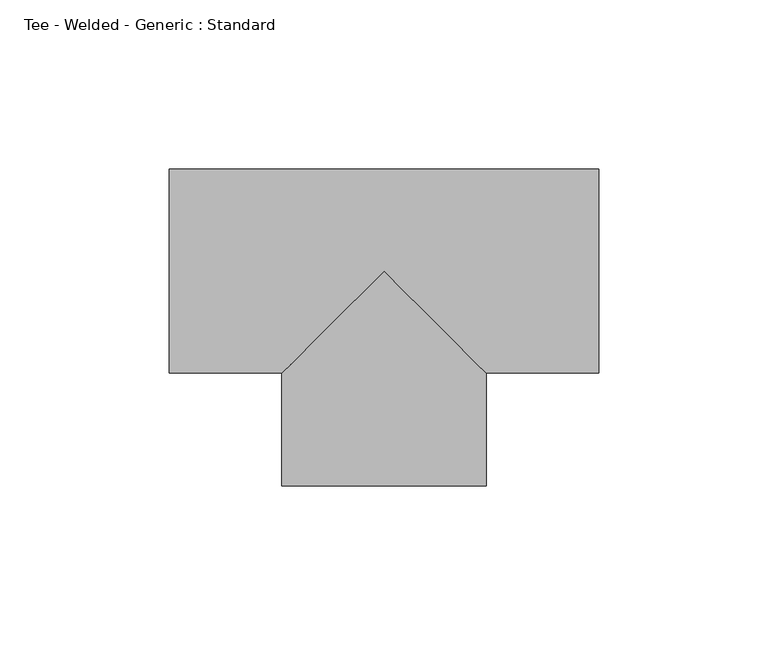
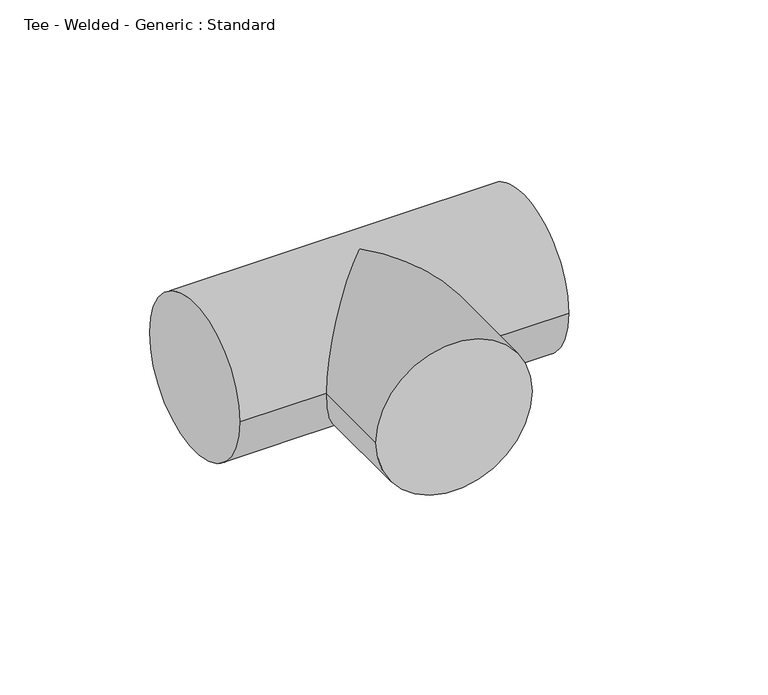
"""IFC4 building model written with IfcOpenShell, lengths in millimetres: pipe fitting geometry, Tee - Welded - Generic : Standard."""

from ifc_helpers import new_model, si_unit, frame, origin, place, context, project, spatial, circle_curve, ellipse_curve, source, transform, mapped, element, save
from ifc_brep_helpers import plane_surface, cylinder_surface, advanced_brep


def tee_welded_generic_standard_f967934a(model_context):
    return source(origin(), model_context, "Body", "AdvancedBrep", [
        advanced_brep(
        [(-63.5, -30.1625, 0.0), (-63.5, 30.1625, 0.0), (63.5, -30.1625, 0.0), (63.5, 30.1625, 0.0), (-30.1646835, -30.1625, 0.0), (0.0, 0.0, 30.1625), (30.1603167, -30.1625, 0.0), (0.0, 0.0, -30.1625), (-30.1670965, -63.4978164, 0.0), (30.1579033, -63.5021832, 0.0)],
        [
            (0, 1, circle_curve(frame((-63.5, 0.0, 0.0), z_axis=(-1.0, 0.0, 0.0), x_axis=(0.0, 1.0, 0.0)), 30.1625)),
            (1, 0, circle_curve(frame((-63.5, 0.0, 0.0), z_axis=(-1.0, 0.0, 0.0), x_axis=(0.0, 1.0, 0.0)), 30.1625)),
            (2, 3, circle_curve(frame((63.5, 0.0, 0.0), z_axis=(1.0, 0.0, 0.0), x_axis=(0.0, 1.0, 0.0)), 30.1625)),
            (3, 2, circle_curve(frame((63.5, 0.0, 0.0), z_axis=(1.0, 0.0, 0.0), x_axis=(0.0, 1.0, 0.0)), 30.1625)),
            (0, 4),
            (4, 5, ellipse_curve(frame((0.0, 0.0, 0.0), z_axis=(-0.7070811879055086, 0.7071323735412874, 0.0), x_axis=(-0.7071323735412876, -0.7070811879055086, 0.0)), 42.6577605, 30.1625)),
            (5, 6, ellipse_curve(frame((0.0, 0.0, 0.0), z_axis=(0.7071323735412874, 0.7070811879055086, 0.0), x_axis=(-0.7070811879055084, 0.7071323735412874, 0.0)), 42.6546728, 30.1625)),
            (6, 2),
            (3, 1),
            (6, 7, ellipse_curve(frame((0.0, 0.0, 0.0), z_axis=(0.7071323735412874, 0.7070811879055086, 0.0), x_axis=(-0.7070811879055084, 0.7071323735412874, 0.0)), 42.6546728, 30.1625)),
            (7, 4, ellipse_curve(frame((0.0, 0.0, 0.0), z_axis=(-0.7070811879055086, 0.7071323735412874, 0.0), x_axis=(-0.7071323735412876, -0.7070811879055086, 0.0)), 42.6577605, 30.1625)),
            (8, 9, circle_curve(frame((-0.0045966, -63.4999998, 0.0), z_axis=(-7.238742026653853e-05, -0.9999999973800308, 0.0), x_axis=(0.9999999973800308, -7.238742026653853e-05, 0.0)), 30.1625)),
            (9, 8, circle_curve(frame((-0.0045966, -63.4999998, 0.0), z_axis=(-7.238742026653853e-05, -0.9999999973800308, 0.0), x_axis=(0.9999999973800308, -7.238742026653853e-05, 0.0)), 30.1625)),
            (9, 6),
            (4, 8),
        ],
        [
            plane_surface(frame((-63.5, 0.0, 0.0), z_axis=(-1.0, 0.0, 0.0), x_axis=(0.0, 0.0, 1.0))),
            plane_surface(frame((63.5, 0.0, 0.0), z_axis=(1.0, 0.0, 0.0), x_axis=(0.0, 0.0, 1.0))),
            cylinder_surface(frame((-63.5, 0.0, 0.0), z_axis=(-1.0, 0.0, 0.0), x_axis=(0.0, 1.0, 0.0)), 30.1625),
            plane_surface(frame((-0.0045966, -63.4999998, 0.0), z_axis=(-7.238742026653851e-05, -0.9999999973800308, 0.0), x_axis=(0.0, 0.0, 1.0))),
            cylinder_surface(frame((0.0, 0.0, 0.0), z_axis=(7.238742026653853e-05, 0.9999999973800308, 0.0), x_axis=(0.9999999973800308, -7.238742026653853e-05, 0.0)), 30.1625),
        ],
        [
            (0, [[1, 2]]),
            (1, [[3, 4]]),
            (2, [[-1, 5, 6, 7, 8, -4, 9]]),
            (2, [[-2, -9, -3, -8, 10, 11, -5]]),
            (3, [[12, 13]]),
            (4, [[-13, 14, -7, -6, 15]]),
            (4, [[-12, -15, -11, -10, -14]]),
        ],
    ),
    ])


if __name__ == "__main__":
    model = new_model("IFC4")
    model_context = context("Model", 3, world=origin())
    ifc_project = project(units=[si_unit("LENGTHUNIT", "METRE", prefix="MILLI")], contexts=[model_context])
    site = spatial("IfcSite", under=ifc_project)
    building = spatial("IfcBuilding", under=site)
    placement = place(None, origin())
    tee_welded_generic_standard_shape = tee_welded_generic_standard_f967934a(model_context)
    element("IfcPipeFitting", 1, ObjectType="Tee - Welded - Generic : Standard", at=placement, inside=building, context=model_context, shape_type="MappedRepresentation", body=[
        mapped(tee_welded_generic_standard_shape, transform((0.0, 0.0, 0.0), x_axis=(1.0, 0.0, 0.0), y_axis=(0.0, 1.0, 0.0), z_axis=(0.0, 0.0, 1.0))),
    ])
    save(model, "model.ifc")
